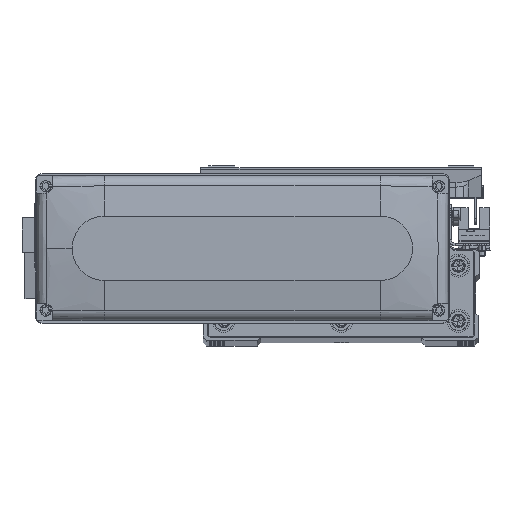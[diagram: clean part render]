
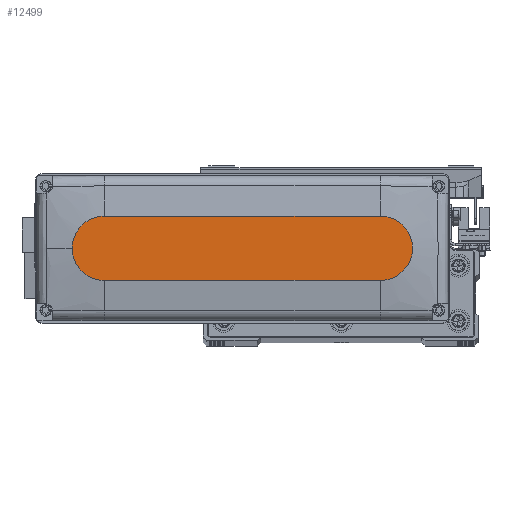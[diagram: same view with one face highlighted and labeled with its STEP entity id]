
A CAD part, top view. The second image highlights one B-rep face of the part: STEP entity #12499.
In plain terms, the highlighted planar face has unit normal (0, 0, 1).
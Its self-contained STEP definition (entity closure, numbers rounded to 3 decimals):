
#509 = ORIENTED_EDGE ( 'NONE', *, *, #10373, .T. ) ;
#704 = CARTESIAN_POINT ( 'NONE',  ( 60., -14., 28.5 ) ) ;
#3778 = CARTESIAN_POINT ( 'NONE',  ( 0., 0., 28.5 ) ) ;
#4031 = FACE_OUTER_BOUND ( 'NONE', #19074, .T. ) ;
#4165 = ORIENTED_EDGE ( 'NONE', *, *, #35731, .T. ) ;
#4589 = CARTESIAN_POINT ( 'NONE',  ( -60., -14., 28.5 ) ) ;
#5817 = CIRCLE ( 'NONE', #9064, 14. ) ;
#6942 = CARTESIAN_POINT ( 'NONE',  ( -60., 0., 28.5 ) ) ;
#8032 = DIRECTION ( 'NONE',  ( 1., 0., 0. ) ) ;
#9064 = AXIS2_PLACEMENT_3D ( 'NONE', #6942, #37478, #38221 ) ;
#9102 = ORIENTED_EDGE ( 'NONE', *, *, #19424, .T. ) ;
#9906 = EDGE_CURVE ( 'NONE', #48730, #38345, #5817, .T. ) ;
#10373 = EDGE_CURVE ( 'NONE', #38345, #18331, #38923, .T. ) ;
#12499 = ADVANCED_FACE ( 'NONE', ( #4031 ), #15493, .T. ) ;
#15074 = ORIENTED_EDGE ( 'NONE', *, *, #26786, .T. ) ;
#15493 = PLANE ( 'NONE',  #45261 ) ;
#16131 = AXIS2_PLACEMENT_3D ( 'NONE', #42873, #38818, #8032 ) ;
#18331 = VERTEX_POINT ( 'NONE', #704 ) ;
#19074 = EDGE_LOOP ( 'NONE', ( #15074, #23616, #509, #9102, #4165 ) ) ;
#19424 = EDGE_CURVE ( 'NONE', #18331, #21124, #44843, .T. ) ;
#21124 = VERTEX_POINT ( 'NONE', #27459 ) ;
#22684 = VECTOR ( 'NONE', #38561, 1000. ) ;
#23616 = ORIENTED_EDGE ( 'NONE', *, *, #9906, .T. ) ;
#23633 = DIRECTION ( 'NONE',  ( 1., 0., 0. ) ) ;
#26786 = EDGE_CURVE ( 'NONE', #27404, #48730, #49496, .T. ) ;
#27189 = DIRECTION ( 'NONE',  ( 0., 0., 1. ) ) ;
#27404 = VERTEX_POINT ( 'NONE', #35650 ) ;
#27459 = CARTESIAN_POINT ( 'NONE',  ( 74., 0., 28.5 ) ) ;
#30671 = CARTESIAN_POINT ( 'NONE',  ( -60., 14., 28.5 ) ) ;
#35650 = CARTESIAN_POINT ( 'NONE',  ( 60., 14., 28.5 ) ) ;
#35731 = EDGE_CURVE ( 'NONE', #21124, #27404, #38016, .T. ) ;
#36745 = VECTOR ( 'NONE', #39158, 1000. ) ;
#37478 = DIRECTION ( 'NONE',  ( 0., 0., 1. ) ) ;
#38016 = CIRCLE ( 'NONE', #16131, 14. ) ;
#38221 = DIRECTION ( 'NONE',  ( 1., 0., 0. ) ) ;
#38344 = CARTESIAN_POINT ( 'NONE',  ( 60., 0., 28.5 ) ) ;
#38345 = VERTEX_POINT ( 'NONE', #48456 ) ;
#38561 = DIRECTION ( 'NONE',  ( -1., 0., 0. ) ) ;
#38818 = DIRECTION ( 'NONE',  ( 0., 0., 1. ) ) ;
#38923 = LINE ( 'NONE', #4589, #36745 ) ;
#39158 = DIRECTION ( 'NONE',  ( 1., 0., 0. ) ) ;
#40002 = AXIS2_PLACEMENT_3D ( 'NONE', #38344, #42370, #45208 ) ;
#41378 = CARTESIAN_POINT ( 'NONE',  ( -60., 14., 28.5 ) ) ;
#42370 = DIRECTION ( 'NONE',  ( 0., 0., 1. ) ) ;
#42873 = CARTESIAN_POINT ( 'NONE',  ( 60., 0., 28.5 ) ) ;
#44843 = CIRCLE ( 'NONE', #40002, 14. ) ;
#45208 = DIRECTION ( 'NONE',  ( 1., 0., 0. ) ) ;
#45261 = AXIS2_PLACEMENT_3D ( 'NONE', #3778, #27189, #23633 ) ;
#48456 = CARTESIAN_POINT ( 'NONE',  ( -60., -14., 28.5 ) ) ;
#48730 = VERTEX_POINT ( 'NONE', #30671 ) ;
#49496 = LINE ( 'NONE', #41378, #22684 ) ;
